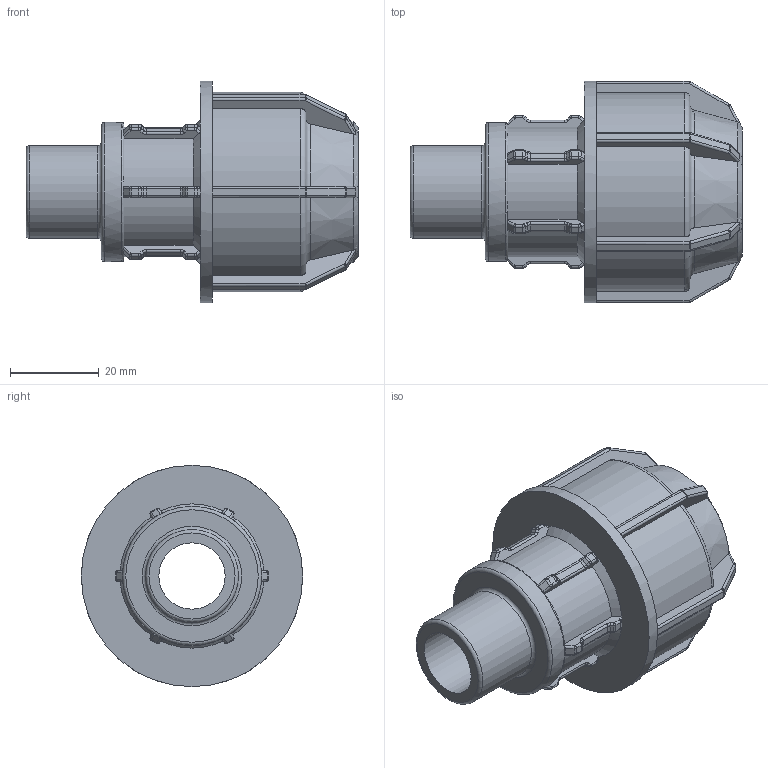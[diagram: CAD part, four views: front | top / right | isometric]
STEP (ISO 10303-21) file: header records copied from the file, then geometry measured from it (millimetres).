
FILE_DESCRIPTION(/* description */ ('PLASSON L.14 MALE ADAPTOR (SILVER) 25-1/2'''''),/* implementation_level */ '2;1');
FILE_NAME(/* name */ 'C:\Dropbox\KIMPROJECTS-Inventor\99-16-3568-Processing\Silver+MF ISRAEL\140200\140200025005.ipt.stp',/* time_stamp */ '2018-04-09T13:02:40+03:00',/* author */ ('KIM'),/* organization */ (''),/* preprocessor_version */ 'ST-DEVELOPER v15.6',/* originating_system */ 'Autodesk Inventor 2015',/* authorisation */ '');
FILE_SCHEMA (('AUTOMOTIVE_DESIGN { 1 0 10303 214 3 1 1 }'));
Length unit declared in the file: millimetre
Products named in the file (1): 140200025005
Bounding box: 75 x 50 x 50 mm (x, y, z)
Volume: 43076.6 mm3; surface area: 17857 mm2
Topology: 1 solids, 1 shells, 472 faces, 1172 edges, 694 vertices
Faces by surface type: cylinder 186, plane 159, bspline 72, torus 42, cone 13
Full cylindrical faces by diameter (mm): 15 x1, 20.955 x1, 25 x2, 31.433 x1, 50 x1
Entity records: 14498 total; most frequent: CARTESIAN_POINT 3782, DIRECTION 2310, ORIENTED_EDGE 2252, EDGE_CURVE 1126, AXIS2_PLACEMENT_3D 930, VERTEX_POINT 676, CIRCLE 508, EDGE_LOOP 488
